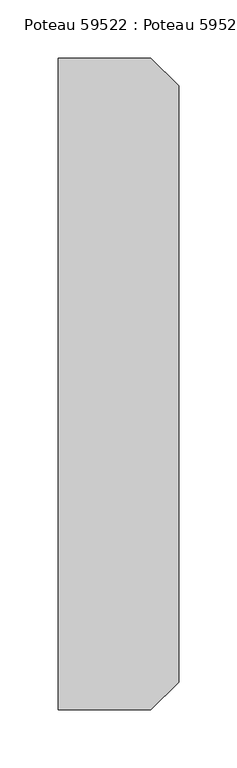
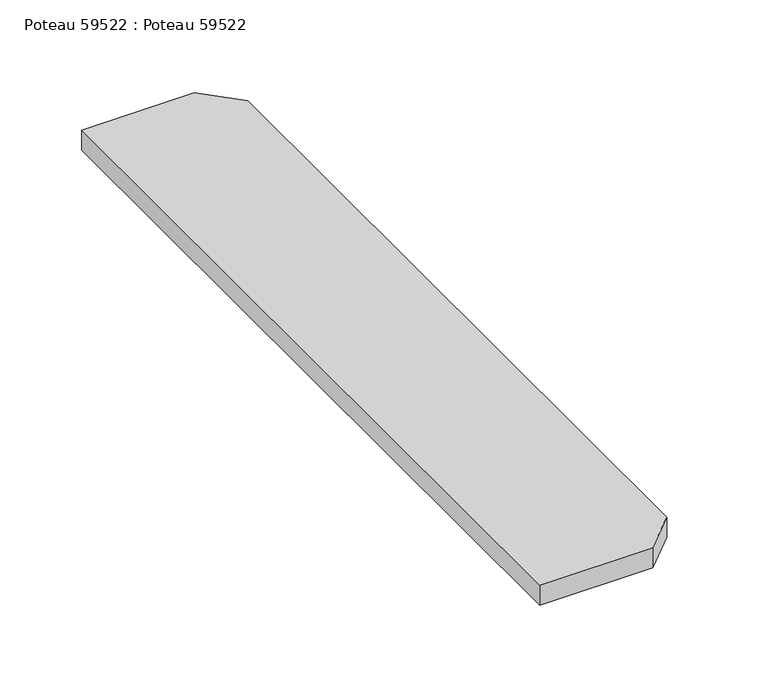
"""IFC4 building model written with IfcOpenShell, lengths in millimetres: beam geometry, Poteau 59522 : Poteau 59522."""

from ifc_helpers import new_model, si_unit, frame, origin, place, context, project, spatial, polyline, outline, extrude, source, transform, mapped, element, save


def poteau_59522_poteau_59522_3088a908(model_context):
    return source(origin(), model_context, "Body", "SweptSolid", [
        extrude(outline(polyline([(-30.0000001, -8015.0), (-6.0000001, -8039.0), (-6.0000001, -8553.0), (-30.0000001, -8577.0), (-110.0000001, -8577.0), (-110.0000001, -8015.0), (-30.0000001, -8015.0)])), frame((0.0, 0.0, 6830.14), z_axis=(0.0, 0.0, 1.0), x_axis=(1.0, 0.0, 0.0)), (0.0, 0.0, 1.0), 15.0),
    ])


if __name__ == "__main__":
    model = new_model("IFC4")
    model_context = context("Model", 3, world=origin())
    ifc_project = project(units=[si_unit("LENGTHUNIT", "METRE", prefix="MILLI")], contexts=[model_context])
    site = spatial("IfcSite", under=ifc_project)
    building = spatial("IfcBuilding", under=site)
    placement = place(None, origin())
    poteau_59522_poteau_59522_shape = poteau_59522_poteau_59522_3088a908(model_context)
    element("IfcBeam", 1, ObjectType="Poteau 59522 : Poteau 59522", at=placement, inside=building, context=model_context, shape_type="MappedRepresentation", body=[
        mapped(poteau_59522_poteau_59522_shape, transform((0.0, 0.0, 0.0), x_axis=(1.0, 0.0, 0.0), y_axis=(0.0, 1.0, 0.0), z_axis=(0.0, 0.0, 1.0))),
    ])
    save(model, "model.ifc")
